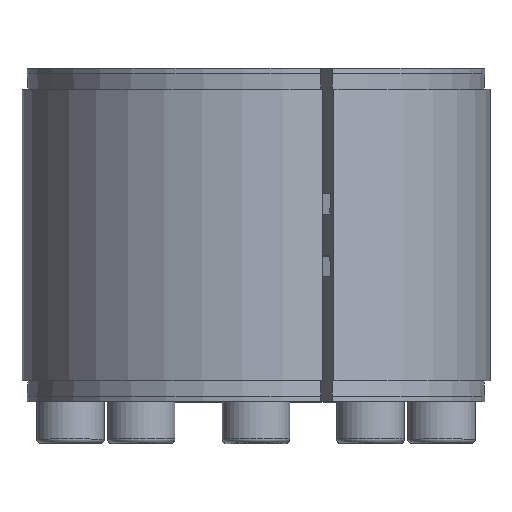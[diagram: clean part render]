
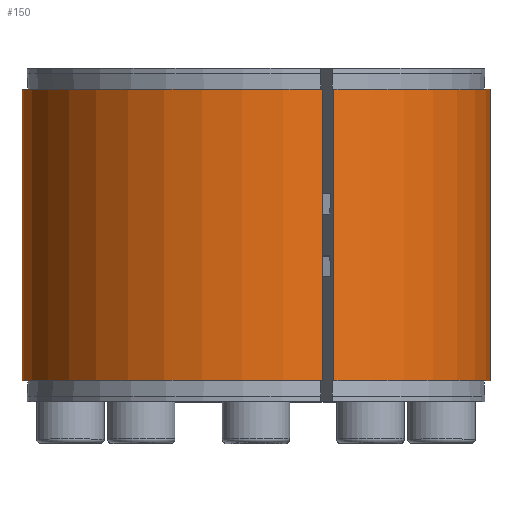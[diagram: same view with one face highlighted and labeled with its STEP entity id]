
A CAD part, top view. The second image highlights one B-rep face of the part: STEP entity #150.
In plain terms, the highlighted cylindrical face has radius 45 mm (diameter 90 mm), a partial arc.
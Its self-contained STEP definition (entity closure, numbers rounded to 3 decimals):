
#150 = ADVANCED_FACE( '', ( #362 ), #363, .T. );
#362 = FACE_OUTER_BOUND( '', #636, .T. );
#363 = CYLINDRICAL_SURFACE( '', #637, 45. );
#636 = EDGE_LOOP( '', ( #1048, #1049, #1050, #1051 ) );
#637 = AXIS2_PLACEMENT_3D( '', #1052, #1053, #1054 );
#1048 = ORIENTED_EDGE( '', *, *, #1370, .F. );
#1049 = ORIENTED_EDGE( '', *, *, #1414, .T. );
#1050 = ORIENTED_EDGE( '', *, *, #1395, .F. );
#1051 = ORIENTED_EDGE( '', *, *, #1385, .F. );
#1052 = CARTESIAN_POINT( '', ( 0., -60., 0. ) );
#1053 = DIRECTION( '', ( 0., 1., 0. ) );
#1054 = DIRECTION( '', ( 0., 0., -1. ) );
#1370 = EDGE_CURVE( '', #1659, #1661, #1662, .T. );
#1385 = EDGE_CURVE( '', #1661, #1683, #1684, .T. );
#1395 = EDGE_CURVE( '', #1683, #1696, #1697, .F. );
#1414 = EDGE_CURVE( '', #1659, #1696, #1725, .T. );
#1659 = VERTEX_POINT( '', #2093 );
#1661 = VERTEX_POINT( '', #2096 );
#1662 = LINE( '', #2097, #2098 );
#1683 = VERTEX_POINT( '', #2122 );
#1684 = CIRCLE( '', #2123, 45. );
#1696 = VERTEX_POINT( '', #2137 );
#1697 = LINE( '', #2138, #2139 );
#1725 = CIRCLE( '', #2182, 45. );
#2093 = CARTESIAN_POINT( '', ( 12.808, 60., 43.139 ) );
#2096 = CARTESIAN_POINT( '', ( 12.808, 4., 43.139 ) );
#2097 = CARTESIAN_POINT( '', ( 12.808, -60., 43.139 ) );
#2098 = VECTOR( '', #2425, 1000. );
#2122 = CARTESIAN_POINT( '', ( 14.995, 4., 42.428 ) );
#2123 = AXIS2_PLACEMENT_3D( '', #2447, #2448, #2449 );
#2137 = CARTESIAN_POINT( '', ( 14.995, 60., 42.428 ) );
#2138 = CARTESIAN_POINT( '', ( 14.995, -60., 42.428 ) );
#2139 = VECTOR( '', #2458, 1000. );
#2182 = AXIS2_PLACEMENT_3D( '', #2477, #2478, #2479 );
#2425 = DIRECTION( '', ( 0., -1., 0. ) );
#2447 = CARTESIAN_POINT( '', ( 0., 4., 0. ) );
#2448 = DIRECTION( '', ( 0., -1., 0. ) );
#2449 = DIRECTION( '', ( 0., 0., -1. ) );
#2458 = DIRECTION( '', ( 0., -1., 0. ) );
#2477 = CARTESIAN_POINT( '', ( 0., 60., 0. ) );
#2478 = DIRECTION( '', ( 0., -1., 0. ) );
#2479 = DIRECTION( '', ( 0., 0., -1. ) );
